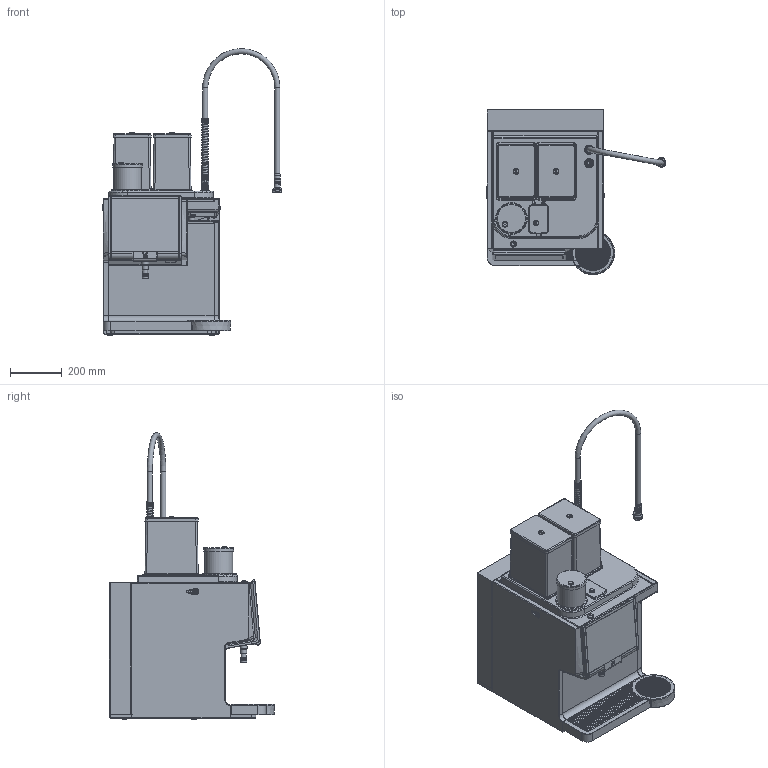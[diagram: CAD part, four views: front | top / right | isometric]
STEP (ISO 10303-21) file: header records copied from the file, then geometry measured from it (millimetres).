
FILE_DESCRIPTION(/* description */ (''),/* implementation_level */ '2;1');
FILE_NAME(/* name */ 'D:\Projekte\WMF\9000F\9000F_GV_TSE_3d.stp',/* time_stamp */ '2019-09-08T05:31:57+02:00',/* author */ ('AM'),/* organization */ (''),/* preprocessor_version */ 'ST-DEVELOPER v17',/* originating_system */ 'Autodesk Inventor 2018',/* authorisation */ '');
FILE_SCHEMA (('AUTOMOTIVE_DESIGN { 1 0 10303 214 3 1 1 }'));
Products named in the file (3): 9000F_GV_TSE_3d; 9000F_GV_3D; 9000F_TSE_3D
Assembly tree (2 placements, depth 2):
  9000F_GV_TSE_3d
    9000F_GV_3D
    9000F_TSE_3D
Bounding box: 696.33 x 639.38 x 1110.89 mm (x, y, z)
Volume: 135594447.8 mm3; surface area: 2587798.7 mm2
Topology: 4 solids, 4 shells, 2695 faces, 6943 edges, 4426 vertices
Faces by surface type: plane 1189, cylinder 901, bspline 232, cone 166, torus 166, sphere 41
Full cylindrical faces by diameter (mm): 2 x1, 3 x29, 3.2 x2, 9.65 x1, 12 x1, 12.5 x3, 13 x1, 13.2 x1, 14.35 x1, 15 x1, 15.6 x1, 16.2 x1, 16.8 x1, 17 x4, 18 x2, 18.2 x2, 18.6 x1, 18.7 x1, 19.9 x1, 20 x5, 22 x5, 22.4 x2, 22.7 x1, 22.8 x3, 23.2 x1, 23.4 x1, 24 x1, 24.3 x1, 24.5 x1, 25 x15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
Entity records: 100894 total; most frequent: CARTESIAN_POINT 34925, ORIENTED_EDGE 13856, DIRECTION 13667, EDGE_CURVE 6928, AXIS2_PLACEMENT_3D 5074, VERTEX_POINT 4438, LINE 3519, VECTOR 3519
